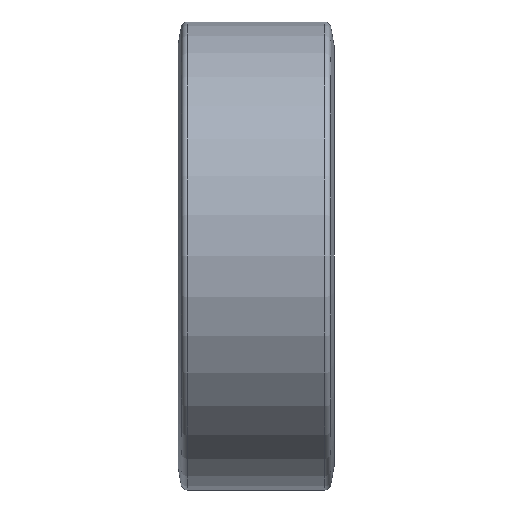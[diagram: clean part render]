
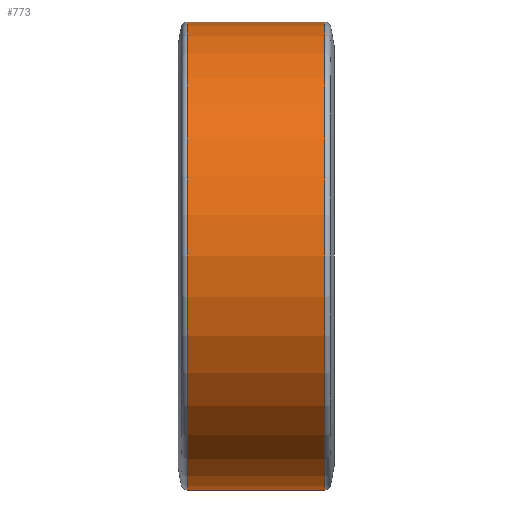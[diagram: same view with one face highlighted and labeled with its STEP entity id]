
A CAD part, front view. The second image highlights one B-rep face of the part: STEP entity #773.
In plain terms, the highlighted cylindrical face has radius 150 mm (diameter 300 mm), a partial arc.
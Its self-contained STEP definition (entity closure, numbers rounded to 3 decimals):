
#26 = VERTEX_POINT ( 'NONE', #931 ) ;
#129 = EDGE_CURVE ( 'NONE', #296, #779, #1447, .T. ) ;
#177 = EDGE_LOOP ( 'NONE', ( #627, #224, #1144, #315 ) ) ;
#188 = EDGE_CURVE ( 'NONE', #26, #779, #972, .T. ) ;
#223 = EDGE_CURVE ( 'NONE', #854, #296, #1318, .T. ) ;
#224 = ORIENTED_EDGE ( 'NONE', *, *, #223, .T. ) ;
#296 = VERTEX_POINT ( 'NONE', #655 ) ;
#315 = ORIENTED_EDGE ( 'NONE', *, *, #188, .F. ) ;
#341 = AXIS2_PLACEMENT_3D ( 'NONE', #1086, #746, #1102 ) ;
#365 = CARTESIAN_POINT ( 'NONE',  ( 0., 0., 0. ) ) ;
#447 = DIRECTION ( 'NONE',  ( 0., 0., 1. ) ) ;
#495 = CARTESIAN_POINT ( 'NONE',  ( 0., 0., -150. ) ) ;
#514 = CARTESIAN_POINT ( 'NONE',  ( 43.999, 0., 0. ) ) ;
#553 = FACE_OUTER_BOUND ( 'NONE', #177, .T. ) ;
#619 = DIRECTION ( 'NONE',  ( -1., 0., 0. ) ) ;
#627 = ORIENTED_EDGE ( 'NONE', *, *, #1040, .F. ) ;
#655 = CARTESIAN_POINT ( 'NONE',  ( 43.999, 0., 150. ) ) ;
#730 = LINE ( 'NONE', #495, #1186 ) ;
#734 = DIRECTION ( 'NONE',  ( -1., 0., 0. ) ) ;
#746 = DIRECTION ( 'NONE',  ( -1., 0., 0. ) ) ;
#773 = ADVANCED_FACE ( 'NONE', ( #553 ), #994, .T. ) ;
#779 = VERTEX_POINT ( 'NONE', #1168 ) ;
#854 = VERTEX_POINT ( 'NONE', #1401 ) ;
#906 = DIRECTION ( 'NONE',  ( -1., 0., 0. ) ) ;
#931 = CARTESIAN_POINT ( 'NONE',  ( -43.999, 0., -150. ) ) ;
#972 = CIRCLE ( 'NONE', #341, 150. ) ;
#982 = DIRECTION ( 'NONE',  ( -1., 0., 0. ) ) ;
#994 = CYLINDRICAL_SURFACE ( 'NONE', #1491, 150. ) ;
#998 = VECTOR ( 'NONE', #619, 1000. ) ;
#1040 = EDGE_CURVE ( 'NONE', #854, #26, #730, .T. ) ;
#1086 = CARTESIAN_POINT ( 'NONE',  ( -43.999, 0., 0. ) ) ;
#1102 = DIRECTION ( 'NONE',  ( 0., 0., 1. ) ) ;
#1144 = ORIENTED_EDGE ( 'NONE', *, *, #129, .T. ) ;
#1168 = CARTESIAN_POINT ( 'NONE',  ( -43.999, 0., 150. ) ) ;
#1186 = VECTOR ( 'NONE', #734, 1000. ) ;
#1228 = CARTESIAN_POINT ( 'NONE',  ( 0., 0., 150. ) ) ;
#1267 = AXIS2_PLACEMENT_3D ( 'NONE', #514, #982, #1453 ) ;
#1318 = CIRCLE ( 'NONE', #1267, 150. ) ;
#1401 = CARTESIAN_POINT ( 'NONE',  ( 43.999, 0., -150. ) ) ;
#1447 = LINE ( 'NONE', #1228, #998 ) ;
#1453 = DIRECTION ( 'NONE',  ( 0., 0., 1. ) ) ;
#1491 = AXIS2_PLACEMENT_3D ( 'NONE', #365, #906, #447 ) ;
